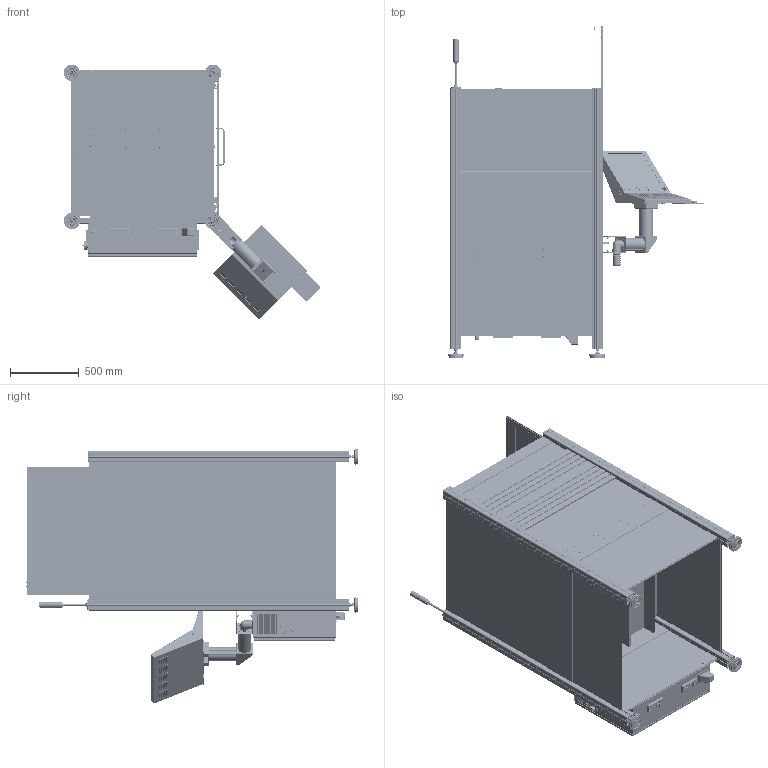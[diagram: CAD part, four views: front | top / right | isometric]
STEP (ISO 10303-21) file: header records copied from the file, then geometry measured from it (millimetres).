
FILE_DESCRIPTION (( 'STEP AP203' ), '1' );
FILE_NAME ('EuroMod - MP45 ArtNr 275134 53655.STEP', '2014-05-05T08:15:32', ( 'test' ), ( 'Microsoft' ), 'SwSTEP 2.0', 'SolidWorks 2014', '' );
FILE_SCHEMA (( 'CONFIG_CONTROL_DESIGN' ));
Products named in the file (11): Energieführungskette 1 - EuroMod_EuroMod - Endlage unten; IGUS 040.07.2__Kette1 25x49 R38; IGUS 040.07.1__Kette1 25x49 R38; DIN 6912_Zylinderschraube DIN 6912 8.8 M 6 x 8; Gestell mit Achsen - EuroMod MP45 - vereinfacht; Energiekette 1 - Z-Achse EuroMod_EuroMod - Endlage unten; Schaltschrank 800x600x250 - Modell 2012_230V - 3xIMD20 - deutsch; EuroMod - MP45 ArtNr 275134 53655; Az2251 - Bedienterminal - Schwenkarm - Montagewinkel PS80; 19zoll - CNC-Bedienpanel mit Schwenkarm 2012_CNC-Bedienpanel mit Schwenkarm - Silikontastatur deutsch; DZ3729 Z-Achse - LES21 - L=496 - vereinfacht
Assembly tree (14 placements, depth 3):
  EuroMod - MP45 ArtNr 275134 53655
    Gestell mit Achsen - EuroMod MP45 - vereinfacht
    Schaltschrank 800x600x250 - Modell 2012_230V - 3xIMD20 - deutsch
    Az2251 - Bedienterminal - Schwenkarm - Montagewinkel PS80  x2
    19zoll - CNC-Bedienpanel mit Schwenkarm 2012_CNC-Bedienpanel mit Schwenkarm - Silikontastatur deutsch
    DZ3729 Z-Achse - LES21 - L=496 - vereinfacht
    Energiekette 1 - Z-Achse EuroMod_EuroMod - Endlage unten
      Energieführungskette 1 - EuroMod_EuroMod - Endlage unten
      IGUS 040.07.2__Kette1 25x49 R38
      IGUS 040.07.1__Kette1 25x49 R38
      DIN 6912_Zylinderschraube DIN 6912 8.8 M 6 x 8  x4
Bounding box: 1870.69 x 2415.2 x 1857.99 mm (x, y, z)
Volume: 97624633.9 mm3; surface area: 66186003.7 mm2
Topology: 595 solids, 669 shells, 36986 faces, 99249 edges, 63338 vertices
Faces by surface type: plane 23240, cylinder 9782, cone 1837, bspline 892, torus 786, sphere 449
Full cylindrical faces by diameter (mm): 1 x15, 1.5 x104, 2 x59, 2.4 x20, 2.5 x225, 2.6 x1, 2.9 x3, 3 x146, 3.2 x148, 3.25 x1, 3.3 x17, 3.4 x126, 3.5 x60, 3.588 x1, 4 x93, 4.2 x132, 4.3 x4, 4.304 x2, 4.5 x54, 4.6 x16, 4.819 x21, 5 x184, 5.2 x24, 5.3 x4, 5.5 x57, 5.6 x1, 6 x160, 6.2 x4, 6.5 x175, 6.6 x154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
Entity records: 1231664 total; most frequent: CARTESIAN_POINT 340965, ORIENTED_EDGE 182222, DIRECTION 176492, EDGE_CURVE 91115, VERTEX_POINT 60818, LINE 59376, VECTOR 59376, AXIS2_PLACEMENT_3D 58558
